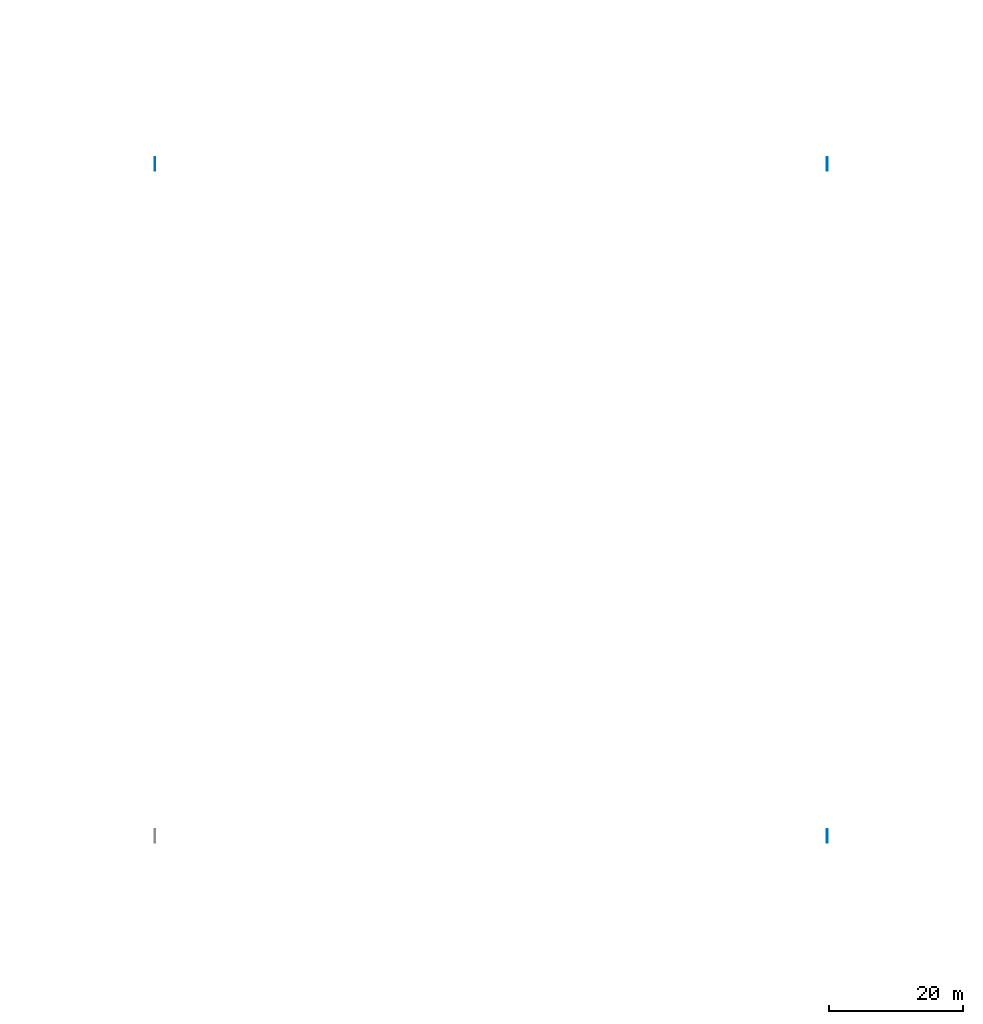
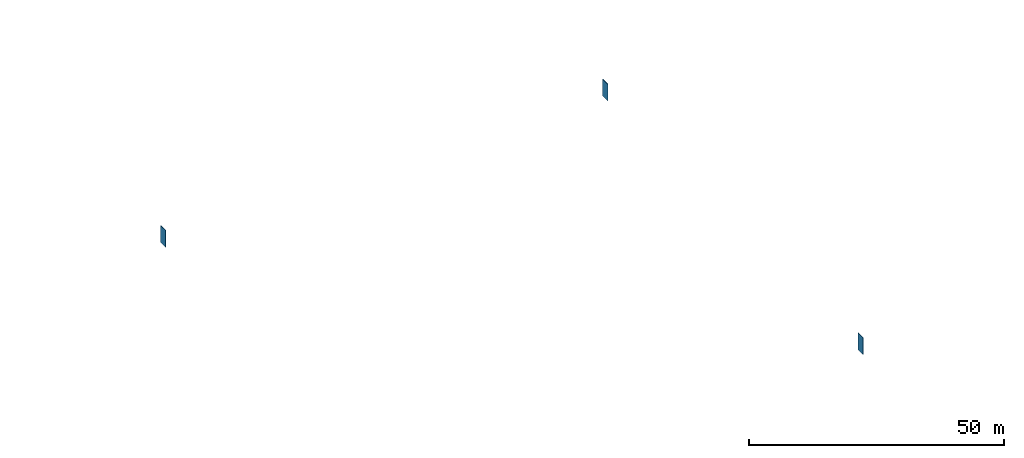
# One storey, part 16 of 164: 3 walls.
"""IFC2X3 building model written with IfcOpenShell, lengths in millimetres."""

import ifcopenshell
import ifcopenshell.guid

model = None  # the IFC model being written
_history = None  # IfcOwnerHistory: only IFC2X3 demands one
_inside = {}  # id of a spatial element -> (the spatial element, [elements in it])
_under = {}  # id of a project, library or spatial element -> (it, [spatial elements below it])
_declared = {}  # id of a project -> (the project, [libraries it declares])
_typed = {}  # id of a type object -> (the type object, [elements of that type])
_made_of = {}  # id of a material, layer set ... -> (it, [elements and type objects made of it])


def new_model(schema):
    """Start an empty IFC model of exactly this schema.

    Asked for "IFC4X3", IfcOpenShell would pick the latest addendum, in which some entities
    have other attributes; the version numbers below select the first issue.
    IFC2X3 requires an IfcOwnerHistory on every rooted entity: one is made here for all.
    """
    global model, _history
    if schema == "IFC4X3":
        model = ifcopenshell.file(schema_version=(4, 3, 0, 0))
    else:
        model = ifcopenshell.file(schema=schema)
    _inside.clear()
    _under.clear()
    _declared.clear()
    _typed.clear()
    _made_of.clear()
    _history = None
    if model.schema == "IFC2X3":
        org = make("IfcOrganization", Name="unknown")
        user = make(
            "IfcPersonAndOrganization",
            ThePerson=make("IfcPerson", FamilyName="unknown"),
            TheOrganization=org,
        )
        app = make(
            "IfcApplication",
            ApplicationDeveloper=org,
            Version="unknown",
            ApplicationFullName="unknown",
            ApplicationIdentifier="unknown",
        )
        _history = make(
            "IfcOwnerHistory",
            OwningUser=user,
            OwningApplication=app,
            ChangeAction="ADDED",
            CreationDate=0,
        )
    return model


def make(cls, **values):
    """One entity of the class cls with the attributes given. An attribute that is None is left unset."""
    return model.create_entity(
        cls, **{name: value for name, value in values.items() if value is not None}
    )


def entity(cls, *values):
    """Any entity or typed value of the class cls, its attributes in the order of the schema. None: left unset."""
    e = model.create_entity(cls)
    for i, value in enumerate(values):
        if value is not None:
            e[i] = value
    return e


def rooted(cls, **values):
    """An entity with a GlobalId (a new one), such as an element, a storey or a relation."""
    return make(cls, GlobalId=ifcopenshell.guid.new(), OwnerHistory=_history, **values)


def si_unit(unit_type, name, prefix=None):
    """IfcSIUnit, for example si_unit("LENGTHUNIT", "METRE", prefix="MILLI")."""
    return make("IfcSIUnit", UnitType=unit_type, Prefix=prefix, Name=name)


def converted_unit(unit_type, name, factor, base, dimensions=None, offset=None):
    """IfcConversionBasedUnit, such as the inch: factor (a typed value) times the base unit."""
    return make(
        "IfcConversionBasedUnit"
        if offset is None
        else "IfcConversionBasedUnitWithOffset",
        ConversionOffset=offset,
        Dimensions=None
        if dimensions is None
        else entity("IfcDimensionalExponents", *dimensions),
        UnitType=unit_type,
        Name=name,
        ConversionFactor=make(
            "IfcMeasureWithUnit", ValueComponent=factor, UnitComponent=base
        ),
    )


def derived_unit(unit_type, elements):
    """IfcDerivedUnit: a product of units, each with its exponent."""
    return make(
        "IfcDerivedUnit",
        Elements=[
            make("IfcDerivedUnitElement", Unit=unit, Exponent=power)
            for unit, power in elements
        ],
        UnitType=unit_type,
    )


def assignment(units):
    """IfcUnitAssignment: the units of a project."""
    return None if units is None else make("IfcUnitAssignment", Units=units)


def point(xyz):
    """IfcCartesianPoint."""
    return None if xyz is None else make("IfcCartesianPoint", Coordinates=xyz)


def direction(xyz):
    """IfcDirection."""
    return None if xyz is None else make("IfcDirection", DirectionRatios=xyz)


def frame(location, z_axis=None, x_axis=None):
    """IfcAxis2Placement3D, a coordinate frame: its origin and axes. An axis left out is left unset."""
    return make(
        "IfcAxis2Placement3D",
        Location=point(location),
        Axis=direction(z_axis),
        RefDirection=direction(x_axis),
    )


def frame_2d(location, x_axis=None):
    """IfcAxis2Placement2D, a coordinate frame in the plane: its origin and x axis."""
    return make(
        "IfcAxis2Placement2D", Location=point(location), RefDirection=direction(x_axis)
    )


def origin():
    """The frame at (0, 0, 0) with its axes left unset."""
    return frame((0.0, 0.0, 0.0))


def place(relative_to, where):
    """IfcLocalPlacement: puts the frame where relative to a parent placement (None: the world)."""
    return make(
        "IfcLocalPlacement", PlacementRelTo=relative_to, RelativePlacement=where
    )


def context(
    kind, dimensions, precision=None, world=None, true_north=None, identifier=None
):
    """IfcGeometricRepresentationContext, for example the 3D "Model" context."""
    return make(
        "IfcGeometricRepresentationContext",
        ContextIdentifier=identifier,
        ContextType=kind,
        CoordinateSpaceDimension=dimensions,
        Precision=precision,
        WorldCoordinateSystem=world,
        TrueNorth=true_north,
    )


def subcontext(parent, identifier, kind, view, scale=None):
    """IfcGeometricRepresentationSubContext, for example "Body" below "Model"."""
    return make(
        "IfcGeometricRepresentationSubContext",
        ContextIdentifier=identifier,
        ContextType=kind,
        ParentContext=parent,
        TargetScale=scale,
        TargetView=view,
    )


def project(units=None, contexts=None):
    """IfcProject with its units and contexts."""
    return rooted(
        "IfcProject",
        Name="project",
        RepresentationContexts=contexts,
        UnitsInContext=assignment(units),
    )


def spatial(cls, under=None, at=None, **own):
    """A site, building, storey or space (cls), placed at a placement, below another one or the project."""
    s = rooted(cls, ObjectPlacement=at, **own)
    if under is not None:
        _under.setdefault(under.id(), (under, []))[1].append(s)
    return s


def profile(cls, at=None, kind="AREA", **sizes):
    """A parametric profile (cls). Its sizes go by their IFC names, for example OverallWidth=200.0."""
    return make(cls, ProfileType=kind, Position=at, **sizes)


def rectangle(**sizes):
    """IfcRectangleProfileDef."""
    return profile("IfcRectangleProfileDef", **sizes)


def extrude(swept, where, along, depth):
    """IfcExtrudedAreaSolid: the profile swept, set in the frame where, extruded along a direction by depth."""
    return make(
        "IfcExtrudedAreaSolid",
        SweptArea=swept,
        Position=where,
        ExtrudedDirection=direction(along),
        Depth=depth,
    )


def shape(context_of_items, identifier, shape_type, items):
    """IfcShapeRepresentation: the items that make up one representation, for example the "Body"."""
    return make(
        "IfcShapeRepresentation",
        ContextOfItems=context_of_items,
        RepresentationIdentifier=identifier,
        RepresentationType=shape_type,
        Items=items,
    )


def material(Name=None, Category=None):
    """IfcMaterial."""
    return make("IfcMaterial", Name=Name, Category=Category)


def layer(
    of_material, thickness, ventilated=None, Name=None, Category=None, Priority=None
):
    """IfcMaterialLayer: one layer of a wall or slab, of a material (None: an air gap)."""
    return make(
        "IfcMaterialLayer",
        Material=of_material,
        LayerThickness=thickness,
        IsVentilated=ventilated,
        Name=Name,
        Category=Category,
        Priority=Priority,
    )


def layer_set(layers, Name=None):
    """IfcMaterialLayerSet."""
    return make("IfcMaterialLayerSet", MaterialLayers=layers, LayerSetName=Name)


def layer_usage(for_layer_set, set_direction, sense, offset, extent=None):
    """IfcMaterialLayerSetUsage: how a layer set lies in its element."""
    return make(
        "IfcMaterialLayerSetUsage",
        ForLayerSet=for_layer_set,
        LayerSetDirection=set_direction,
        DirectionSense=sense,
        OffsetFromReferenceLine=offset,
        ReferenceExtent=extent,
    )


def made_of(thing, what):
    """Note that an element or type object is made of a material, layer set ...; save() writes the relation."""
    if what is not None:
        _made_of.setdefault(what.id(), (what, []))[1].append(thing)
    return thing


def type_object(cls, material=None, **own):
    """A type object (cls), such as IfcWallType, which elements share."""
    return made_of(rooted(cls, **own), material)


def element(
    cls,
    number,
    at=None,
    inside=None,
    cuts=None,
    type_object=None,
    material=None,
    context=None,
    identifier="Body",
    shape_type=None,
    held_by="IfcProductDefinitionShape",
    body=None,
    shapes=None,
    **own,
):
    """One element of the class cls, such as IfcWall. Its Tag is "e" and its number.

    at: its placement. inside: the storey or other place that contains it. cuts: it is an
    opening in that element (IfcRelVoidsElement). A single representation is given by context,
    identifier, shape_type and body (its items); several are given by shapes. held_by: the class
    of the entity that holds the representations. save() writes the other relations.
    """
    e = rooted(cls, Tag="e%d" % number, ObjectPlacement=at, **own)
    if body is not None:
        shapes = [shape(context, identifier, shape_type, body)]
    if shapes is not None:
        e.Representation = make(held_by, Representations=shapes)
    if inside is not None:
        _inside.setdefault(inside.id(), (inside, []))[1].append(e)
    if cuts is not None:
        rooted(
            "IfcRelVoidsElement", RelatingBuildingElement=cuts, RelatedOpeningElement=e
        )
    if type_object is not None:
        _typed.setdefault(type_object.id(), (type_object, []))[1].append(e)
    return made_of(e, material)


def aggregate(whole, parts):
    """IfcRelAggregates: a whole, such as a stair, and the parts it consists of."""
    return rooted("IfcRelAggregates", RelatingObject=whole, RelatedObjects=parts)


def save(model, path):
    """Write the relations noted so far, then the file.

    IfcRelAggregates (storeys below a building ...), IfcRelContainedInSpatialStructure (elements
    in a storey), IfcRelDefinesByType, IfcRelAssociatesMaterial and IfcRelDeclares: one each for
    every whole, place, type object, material and project.
    """
    for whole, parts in _under.values():
        aggregate(whole, parts)
    for where, things in _inside.values():
        rooted(
            "IfcRelContainedInSpatialStructure",
            RelatedElements=things,
            RelatingStructure=where,
        )
    for kind, things in _typed.values():
        rooted("IfcRelDefinesByType", RelatedObjects=things, RelatingType=kind)
    for what, things in _made_of.values():
        rooted("IfcRelAssociatesMaterial", RelatedObjects=things, RelatingMaterial=what)
    for by, libraries in _declared.values():
        rooted("IfcRelDeclares", RelatingContext=by, RelatedDefinitions=libraries)
    model.write(path)


model = new_model("IFC2X3")

# Units and contexts
model_context = context("Model", 3, precision=0.01, world=origin(), true_north=direction((6.12303176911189e-17, 1.0)))
body_context = subcontext(model_context, "Body", "Model", "MODEL_VIEW")
ifc_project = project(units=[si_unit("LENGTHUNIT", "METRE", prefix="MILLI"), si_unit("AREAUNIT", "SQUARE_METRE"), si_unit("VOLUMEUNIT", "CUBIC_METRE"), converted_unit("PLANEANGLEUNIT", "DEGREE", entity("IfcRatioMeasure", 0.0174532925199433), si_unit("PLANEANGLEUNIT", "RADIAN"), dimensions=[0, 0, 0, 0, 0, 0, 0]), si_unit("MASSUNIT", "GRAM", prefix="KILO"), derived_unit("MASSDENSITYUNIT", [(si_unit("MASSUNIT", "GRAM", prefix="KILO"), 1), (si_unit("LENGTHUNIT", "METRE"), -3)]), derived_unit("MOMENTOFINERTIAUNIT", [(si_unit("LENGTHUNIT", "METRE"), 4)]), si_unit("TIMEUNIT", "SECOND"), si_unit("FREQUENCYUNIT", "HERTZ"), si_unit("THERMODYNAMICTEMPERATUREUNIT", "DEGREE_CELSIUS"), derived_unit("THERMALTRANSMITTANCEUNIT", [(si_unit("MASSUNIT", "GRAM", prefix="KILO"), 1), (si_unit("THERMODYNAMICTEMPERATUREUNIT", "KELVIN"), -1), (si_unit("TIMEUNIT", "SECOND"), -3)]), derived_unit("VOLUMETRICFLOWRATEUNIT", [(si_unit("LENGTHUNIT", "METRE"), 3), (si_unit("TIMEUNIT", "SECOND"), -1)]), si_unit("ELECTRICCURRENTUNIT", "AMPERE"), si_unit("ELECTRICVOLTAGEUNIT", "VOLT"), si_unit("POWERUNIT", "WATT"), si_unit("FORCEUNIT", "NEWTON", prefix="KILO"), si_unit("ILLUMINANCEUNIT", "LUX"), si_unit("LUMINOUSFLUXUNIT", "LUMEN"), si_unit("LUMINOUSINTENSITYUNIT", "CANDELA"), derived_unit("USERDEFINED", [(si_unit("MASSUNIT", "GRAM", prefix="KILO"), -1), (si_unit("LENGTHUNIT", "METRE"), -2), (si_unit("TIMEUNIT", "SECOND"), 3), (si_unit("LUMINOUSFLUXUNIT", "LUMEN"), 1)]), derived_unit("LINEARVELOCITYUNIT", [(si_unit("LENGTHUNIT", "METRE"), 1), (si_unit("TIMEUNIT", "SECOND"), -1)]), si_unit("PRESSUREUNIT", "PASCAL"), derived_unit("USERDEFINED", [(si_unit("LENGTHUNIT", "METRE"), -2), (si_unit("MASSUNIT", "GRAM", prefix="KILO"), 1), (si_unit("TIMEUNIT", "SECOND"), -2)]), derived_unit("LINEARFORCEUNIT", [(si_unit("MASSUNIT", "GRAM", prefix="KILO"), 1), (si_unit("LENGTHUNIT", "METRE"), 1), (si_unit("TIMEUNIT", "SECOND"), -2), (si_unit("LENGTHUNIT", "METRE"), -1)]), derived_unit("PLANARFORCEUNIT", [(si_unit("MASSUNIT", "GRAM", prefix="KILO"), 1), (si_unit("LENGTHUNIT", "METRE"), 1), (si_unit("TIMEUNIT", "SECOND"), -2), (si_unit("LENGTHUNIT", "METRE"), -2)])], contexts=[model_context])

# Site, building, storey
site_placement = place(None, origin())
site = spatial("IfcSite", under=ifc_project, at=site_placement, Name="Default", CompositionType="ELEMENT")
building_placement = place(site_placement, origin())
building = spatial("IfcBuilding", under=site, at=building_placement, CompositionType="ELEMENT")
storey_placement = place(building_placement, origin())
storey = spatial("IfcBuildingStorey", under=building, at=storey_placement, Name="Level 1", CompositionType="ELEMENT", Elevation=0.0)

# Walls
ifc_material = material(Name="Default Wall")
ifc_layer = layer(ifc_material, 100.0)
ifc_layer_set = layer_set([ifc_layer], Name="Basic Wall:Generic - 100mm")
ifc_layer_usage_1 = layer_usage(ifc_layer_set, "AXIS2", "NEGATIVE", 50.0)
wall_type = type_object("IfcWallType", Name="Basic Wall:Generic - 100mm", PredefinedType="STANDARD", material=ifc_layer_set)
wall_1_placement = place(storey_placement, frame((500050.0, 401000.0, 0.0), z_axis=(0.0, 0.0, 1.0), x_axis=(0.0, -1.0, 0.0)))
element("IfcWallStandardCase", 1, at=wall_1_placement, inside=storey, type_object=wall_type, material=ifc_layer_usage_1, Name="Basic Wall:Generic - 100mm", ObjectType="Basic Wall:Generic - 100mm", context=body_context, shape_type="SweptSolid", body=[
    extrude(rectangle(XDim=1999.99999999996, YDim=100.000000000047, at=frame_2d((999.999999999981, 1.60582658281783e-12), x_axis=(-1.0, 0.0))), origin(), (0.0, 0.0, 1.0), 4000.0),
])
ifc_layer_usage_2 = layer_usage(ifc_layer_set, "AXIS2", "NEGATIVE", 50.0)
wall_2_placement = place(storey_placement, frame((400050.0, 501000.0, 0.0), z_axis=(0.0, 0.0, 1.0), x_axis=(0.0, -1.0, 0.0)))
element("IfcWallStandardCase", 2, at=wall_2_placement, inside=storey, type_object=wall_type, material=ifc_layer_usage_2, Name="Basic Wall:Generic - 100mm", ObjectType="Basic Wall:Generic - 100mm", context=body_context, shape_type="SweptSolid", body=[
    extrude(rectangle(XDim=1999.99999999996, YDim=100.000000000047, at=frame_2d((999.999999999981, 1.60582658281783e-12), x_axis=(-1.0, 0.0))), origin(), (0.0, 0.0, 1.0), 4000.0),
])
ifc_layer_usage_3 = layer_usage(ifc_layer_set, "AXIS2", "NEGATIVE", 50.0)
wall_3_placement = place(storey_placement, frame((500050.0, 501000.0, 0.0), z_axis=(0.0, 0.0, 1.0), x_axis=(0.0, -1.0, 0.0)))
element("IfcWallStandardCase", 3, at=wall_3_placement, inside=storey, type_object=wall_type, material=ifc_layer_usage_3, Name="Basic Wall:Generic - 100mm", ObjectType="Basic Wall:Generic - 100mm", context=body_context, shape_type="SweptSolid", body=[
    extrude(rectangle(XDim=1999.99999999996, YDim=100.000000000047, at=frame_2d((999.999999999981, 1.60582658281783e-12), x_axis=(-1.0, 0.0))), origin(), (0.0, 0.0, 1.0), 4000.0),
])

save(model, "model.ifc")
